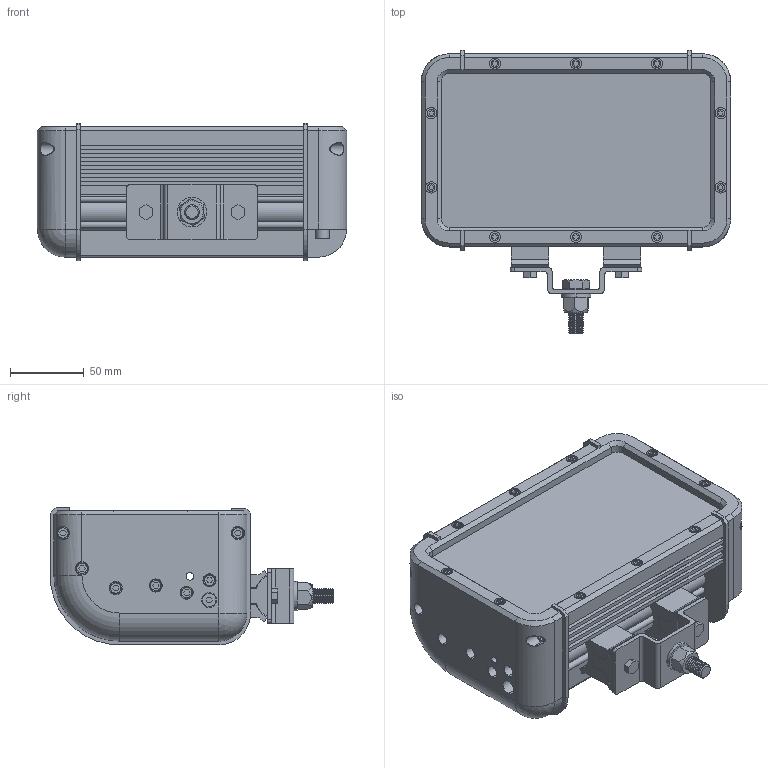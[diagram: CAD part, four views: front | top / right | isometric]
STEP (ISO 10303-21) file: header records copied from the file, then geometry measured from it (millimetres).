
FILE_DESCRIPTION (( 'STEP AP203' ), '1' );
FILE_NAME ('LEDLB-24E.STEP', '2021-11-16T19:35:38', ( '' ), ( '' ), 'SwSTEP 2.0', 'SolidWorks 2020', '' );
FILE_SCHEMA (( 'CONFIG_CONTROL_DESIGN' ));
Length unit declared in the file: inch
Products named in the file (1): LEDLB-24E
Bounding box: 209.55 x 192.23 x 93.34 mm (x, y, z)
Surface area: 342483 mm2 (no closed solid volume)
Topology: 0 solids, 7 shells, 869 faces, 2198 edges, 1417 vertices
Faces by surface type: plane 457, cylinder 269, cone 104, torus 28, bspline 10, sphere 1
Entity records: 28290 total; most frequent: CARTESIAN_POINT 6854, DIRECTION 4553, ORIENTED_EDGE 4362, EDGE_CURVE 2197, AXIS2_PLACEMENT_3D 1576, VERTEX_POINT 1417, LINE 1401, VECTOR 1401
